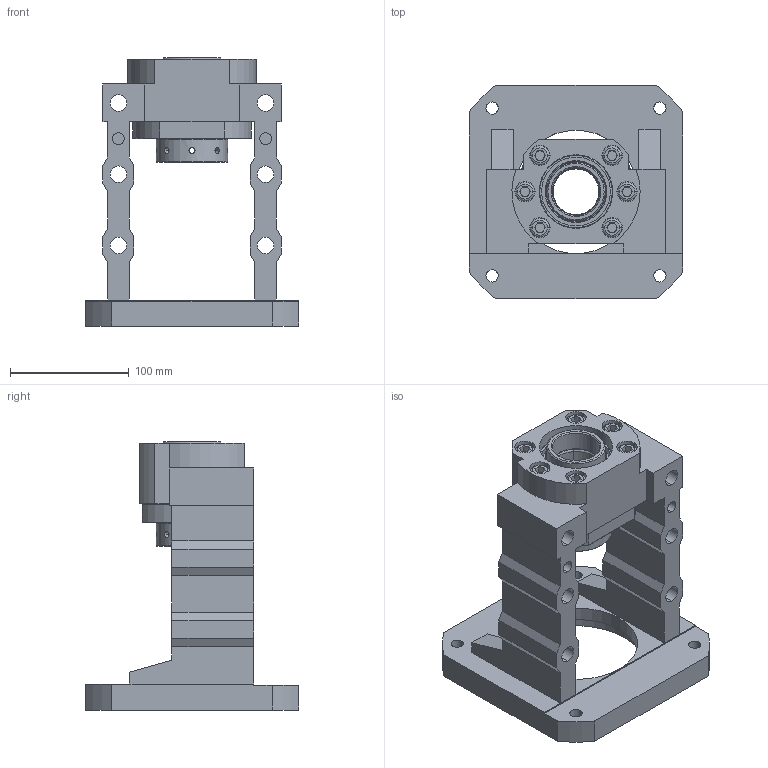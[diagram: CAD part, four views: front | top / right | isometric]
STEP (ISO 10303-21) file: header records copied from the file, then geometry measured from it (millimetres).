
FILE_DESCRIPTION (( 'STEP AP203' ), '1' );
FILE_NAME ('MBCS40-H²Õ¦X¥ó.STEP', '2022-10-20T07:53:28', ( '' ), ( '' ), 'SwSTEP 2.0', 'SolidWorks 2018', '' );
FILE_SCHEMA (( 'CONFIG_CONTROL_DESIGN' ));
Products named in the file (1): MBCS40-H組合件
Bounding box: 180 x 180 x 226 mm (x, y, z)
Surface area: 237114.8 mm2 (no closed solid volume)
Topology: 0 solids, 21 shells, 344 faces, 967 edges, 639 vertices
Faces by surface type: plane 132, cylinder 120, cone 62, torus 18, bspline 12
Entity records: 26665 total; most frequent: CARTESIAN_POINT 17783, DIRECTION 1864, ORIENTED_EDGE 1698, EDGE_CURVE 959, AXIS2_PLACEMENT_3D 702, VERTEX_POINT 639, VECTOR 460, LINE 460
